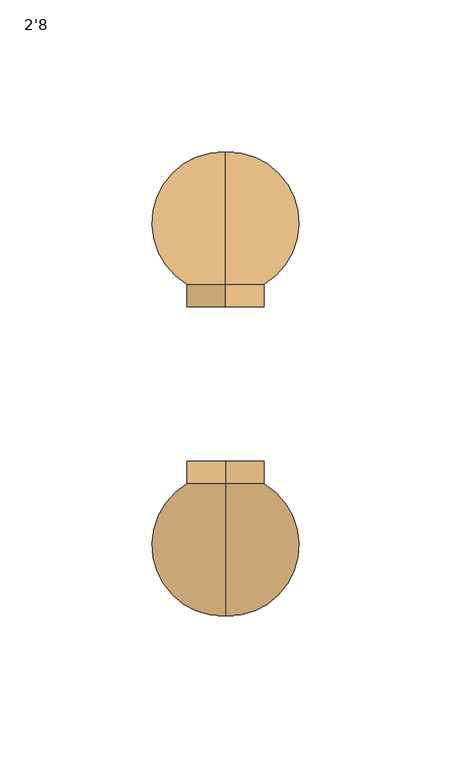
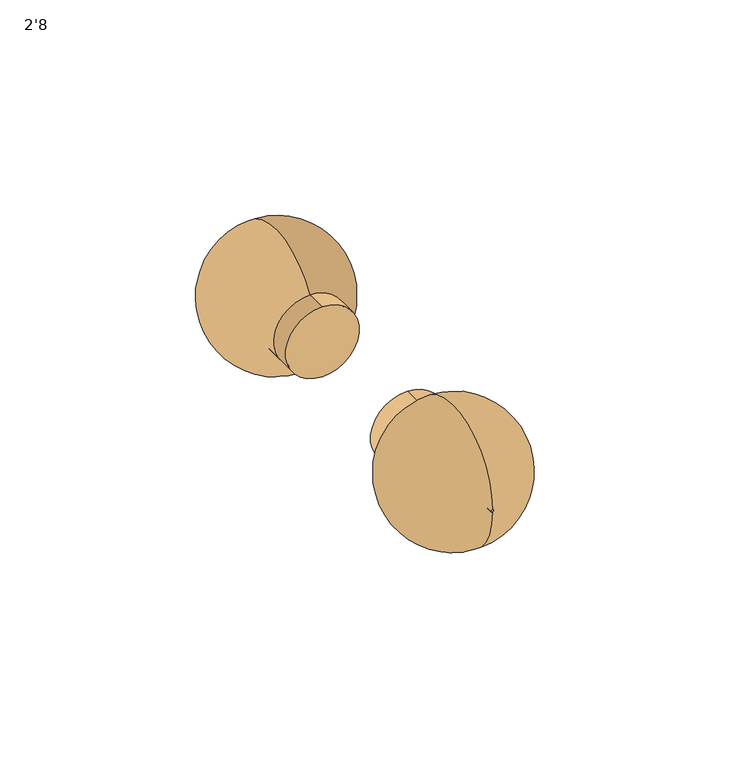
"""IFC4 building model written with IfcOpenShell, lengths in millimetres: door geometry, Planitar - Single Door : 2'8."""

from ifc_helpers import new_model, si_unit, point, frame, frame_2d, origin, place, context, project, spatial, polyline, circle_curve, ellipse_curve, trimmed, segment, composite_curve, outline, extrude, source, transform, mapped, element, save
from ifc_brep_helpers import plane_surface, revolved_surface, advanced_brep


def door_2_8_83d02ac8(model_context):
    return source(origin(), model_context, "Body", "SolidModel", [
        advanced_brep(
        [(-342.9, -12.7, 1028.7), (-342.9, -12.7, 1003.3), (-342.9, -7.3563035, 1003.3), (-342.9, -7.3563035, 1028.7), (-342.9, -50.8, 1016.4831019), (-342.9, -50.8, 1015.5168981), (-342.9, -12.7, 1015.5168981), (-342.9, -12.7, 1016.4831019)],
        [
            (0, 1, circle_curve(frame((-342.9, -12.7, 1016.0), z_axis=(0.0, -1.0, 0.0), x_axis=(0.0, 0.0, -1.0)), 12.7)),
            (1, 2),
            (2, 3, circle_curve(frame((-342.9, -7.3563035, 1016.0), z_axis=(0.0, 1.0, 0.0), x_axis=(0.0, 0.0, -1.0)), 12.7)),
            (3, 0),
            (4, 5, circle_curve(frame((-342.9, -50.8, 1016.0), z_axis=(0.0, -1.0, 0.0), x_axis=(0.0, 0.0, -1.0)), 0.4831019)),
            (5, 6),
            (6, 7, circle_curve(frame((-342.9, -12.7, 1016.0), z_axis=(0.0, 1.0, 0.0), x_axis=(0.0, 0.0, -1.0)), 0.4831019)),
            (7, 4),
            (1, 0, circle_curve(frame((-342.9, -12.7, 1016.0), z_axis=(0.0, -1.0, 0.0), x_axis=(0.0, 0.0, 1.0)), 12.7)),
            (3, 2, circle_curve(frame((-342.9, -7.3563035, 1016.0), z_axis=(0.0, 1.0, 0.0), x_axis=(0.0, 0.0, 1.0)), 12.7)),
            (6, 7, circle_curve(frame((-342.9, -12.7, 1016.0), z_axis=(0.0, -1.0, 0.0), x_axis=(0.0, 0.0, 1.0)), 0.4831019)),
            (5, 4, circle_curve(frame((-342.9, -50.8, 1016.0), z_axis=(0.0, -1.0, 0.0), x_axis=(0.0, 0.0, 1.0)), 0.4831019)),
            (2, 5, circle_curve(frame((-342.9, -27.5182494, 1014.9555138), z_axis=(-1.0, 0.0, 0.0), x_axis=(0.0, -1.0, 0.0)), 23.2885178)),
            (4, 3, circle_curve(frame((-342.9, -27.5182494, 1017.0444862), z_axis=(-1.0, 0.0, 0.0), x_axis=(0.0, -1.0, 0.0)), 23.2885178)),
        ],
        [
            revolved_surface(polyline([(-342.9, -7.3563035, 1003.3), (-342.9, -12.7, 1003.3)]), (-342.9, -12.7, 1016.0), (0.0, 1.0, 0.0)),
            revolved_surface(polyline([(-342.9, -12.7, 1015.5168981), (-342.9, -50.8, 1015.5168981)]), (-342.9, -12.7, 1016.0), (0.0, 1.0, 0.0)),
            revolved_surface(polyline([(-342.9, -7.3563035, 1028.7), (-342.9, -12.7, 1028.7)]), (-342.9, -12.7, 1016.0), (0.0, 1.0, 0.0)),
            plane_surface(frame((-342.9, -12.7, 1016.0), z_axis=(0.0, 1.0, 0.0), x_axis=(0.0, 0.0, 1.0))),
            revolved_surface(polyline([(-342.9, -12.7, 1016.4831019), (-342.9, -50.8, 1016.4831019)]), (-342.9, -12.7, 1016.0), (0.0, 1.0, 0.0)),
            revolved_surface(trimmed(ellipse_curve(frame((-342.9, -27.5182494, 1014.9555138), z_axis=(1.0, 0.0, 0.0), x_axis=(0.0, -1.0, 0.0)), 23.2885178, 23.2885178), [point((-342.9, -50.8, 1015.5168981))], [point((-342.9, -7.3563035, 1003.3))], True, "CARTESIAN"), (-342.9, -12.7, 1016.0), (0.0, 1.0, 0.0)),
            revolved_surface(trimmed(ellipse_curve(frame((-342.9, -27.5182494, 1017.0444862), z_axis=(-1.0, 0.0, 0.0), x_axis=(0.0, -1.0, 0.0)), 23.2885178, 23.2885178), [point((-342.9, -50.8, 1016.4831019))], [point((-342.9, -7.3563035, 1028.7))], True, "CARTESIAN"), (-342.9, -12.7, 1016.0), (0.0, 1.0, 0.0)),
        ],
        [
            (0, [[1, 2, 3, 4]]),
            (1, [[5, 6, 7, 8]]),
            (2, [[9, -4, 10, -2]]),
            (3, [[-9, -1], [11, -7]]),
            (4, [[12, -8, -11, -6]]),
            (5, [[-3, 13, -5, 14]]),
            (6, [[-10, -14, -12, -13]]),
        ],
    ),
        extrude(outline(composite_curve([segment(trimmed(circle_curve(frame_2d((1016.0, -342.9)), 12.7), [point((1028.7, -342.9))], [point((1003.3, -342.9))], False, "CARTESIAN"), True, "CONTINUOUS"), segment(trimmed(circle_curve(frame_2d((1016.0, -342.9)), 12.7), [point((1003.3, -342.9))], [point((1028.7, -342.9))], False, "CARTESIAN"), True, "CONTINUOUS")], self_intersect=False)), frame((0.0, -12.7, 0.0), z_axis=(0.0, 1.0, 0.0), x_axis=(0.0, 0.0, 1.0)), (0.0, 0.0, 1.0), 12.7),
        advanced_brep(
        [(-342.9, 63.5, 1028.7), (-342.9, 63.5, 1003.3), (-342.9, 58.1563035, 1003.3), (-342.9, 58.1563035, 1028.7), (-342.9, 101.6, 1016.4831019), (-342.9, 101.6, 1015.5168981), (-342.9, 63.5, 1015.5168981), (-342.9, 63.5, 1016.4831019)],
        [
            (0, 1, circle_curve(frame((-342.9, 63.5, 1016.0), z_axis=(0.0, 1.0, 0.0), x_axis=(0.0, 0.0, -1.0)), 12.7)),
            (1, 2),
            (2, 3, circle_curve(frame((-342.9, 58.1563035, 1016.0), z_axis=(0.0, -1.0, 0.0), x_axis=(0.0, 0.0, -1.0)), 12.7)),
            (3, 0),
            (4, 5, circle_curve(frame((-342.9, 101.6, 1016.0), z_axis=(0.0, 1.0, 0.0), x_axis=(0.0, 0.0, -1.0)), 0.4831019)),
            (5, 6),
            (6, 7, circle_curve(frame((-342.9, 63.5, 1016.0), z_axis=(0.0, -1.0, 0.0), x_axis=(0.0, 0.0, -1.0)), 0.4831019)),
            (7, 4),
            (1, 0, circle_curve(frame((-342.9, 63.5, 1016.0), z_axis=(0.0, 1.0, 0.0), x_axis=(0.0, 0.0, 1.0)), 12.7)),
            (3, 2, circle_curve(frame((-342.9, 58.1563035, 1016.0), z_axis=(0.0, -1.0, 0.0), x_axis=(0.0, 0.0, 1.0)), 12.7)),
            (6, 7, circle_curve(frame((-342.9, 63.5, 1016.0), z_axis=(0.0, 1.0, 0.0), x_axis=(0.0, 0.0, 1.0)), 0.4831019)),
            (5, 4, circle_curve(frame((-342.9, 101.6, 1016.0), z_axis=(0.0, 1.0, 0.0), x_axis=(0.0, 0.0, 1.0)), 0.4831019)),
            (2, 5, circle_curve(frame((-342.9, 78.3182494, 1014.9555138), z_axis=(1.0, 0.0, 0.0), x_axis=(0.0, 1.0, 0.0)), 23.2885178)),
            (4, 3, circle_curve(frame((-342.9, 78.3182494, 1017.0444862), z_axis=(1.0, 0.0, 0.0), x_axis=(0.0, 1.0, 0.0)), 23.2885178)),
        ],
        [
            revolved_surface(polyline([(-342.9, 58.1563035, 1003.3), (-342.9, 63.5, 1003.3)]), (-342.9, 63.5, 1016.0), (0.0, -1.0, 0.0)),
            revolved_surface(polyline([(-342.9, 63.5, 1015.5168981), (-342.9, 101.6, 1015.5168981)]), (-342.9, 63.5, 1016.0), (0.0, -1.0, 0.0)),
            revolved_surface(polyline([(-342.9, 58.1563035, 1028.7), (-342.9, 63.5, 1028.7)]), (-342.9, 63.5, 1016.0), (0.0, -1.0, 0.0)),
            plane_surface(frame((-342.9, 63.5, 1016.0), z_axis=(0.0, -1.0, 0.0), x_axis=(0.0, 0.0, 1.0))),
            revolved_surface(polyline([(-342.9, 63.5, 1016.4831019), (-342.9, 101.6, 1016.4831019)]), (-342.9, 63.5, 1016.0), (0.0, -1.0, 0.0)),
            revolved_surface(trimmed(ellipse_curve(frame((-342.9, 78.3182494, 1014.9555138), z_axis=(-1.0, 0.0, 0.0), x_axis=(0.0, 1.0, 0.0)), 23.2885178, 23.2885178), [point((-342.9, 101.6, 1015.5168981))], [point((-342.9, 58.1563035, 1003.3))], True, "CARTESIAN"), (-342.9, 63.5, 1016.0), (0.0, -1.0, 0.0)),
            revolved_surface(trimmed(ellipse_curve(frame((-342.9, 78.3182494, 1017.0444862), z_axis=(1.0, 0.0, 0.0), x_axis=(0.0, 1.0, 0.0)), 23.2885178, 23.2885178), [point((-342.9, 101.6, 1016.4831019))], [point((-342.9, 58.1563035, 1028.7))], True, "CARTESIAN"), (-342.9, 63.5, 1016.0), (0.0, -1.0, 0.0)),
        ],
        [
            (0, [[1, 2, 3, 4]]),
            (1, [[5, 6, 7, 8]]),
            (2, [[9, -4, 10, -2]]),
            (3, [[-9, -1], [11, -7]]),
            (4, [[12, -8, -11, -6]]),
            (5, [[-3, 13, -5, 14]]),
            (6, [[-10, -14, -12, -13]]),
        ],
    ),
        extrude(outline(composite_curve([segment(trimmed(circle_curve(frame_2d((1016.0, -342.9)), 12.7), [point((1028.7, -342.9))], [point((1003.3, -342.9))], False, "CARTESIAN"), True, "CONTINUOUS"), segment(trimmed(circle_curve(frame_2d((1016.0, -342.9)), 12.7), [point((1003.3, -342.9))], [point((1028.7, -342.9))], False, "CARTESIAN"), True, "CONTINUOUS")], self_intersect=False)), frame((0.0, 50.8, 0.0), z_axis=(0.0, 1.0, 0.0), x_axis=(0.0, 0.0, 1.0)), (0.0, 0.0, 1.0), 12.7),
    ])


if __name__ == "__main__":
    model = new_model("IFC4")
    model_context = context("Model", 3, world=origin())
    ifc_project = project(units=[si_unit("LENGTHUNIT", "METRE", prefix="MILLI")], contexts=[model_context])
    site = spatial("IfcSite", under=ifc_project)
    building = spatial("IfcBuilding", under=site)
    placement = place(None, origin())
    door_2_8_shape = door_2_8_83d02ac8(model_context)
    element("IfcDoor", 1, ObjectType="Planitar - Single Door : 2'8", at=placement, inside=building, context=model_context, shape_type="MappedRepresentation", body=[
        mapped(door_2_8_shape, transform((0.0, 0.0, 0.0), x_axis=(1.0, 0.0, 0.0), y_axis=(0.0, 1.0, 0.0), z_axis=(0.0, 0.0, 1.0))),
    ])
    save(model, "model.ifc")
